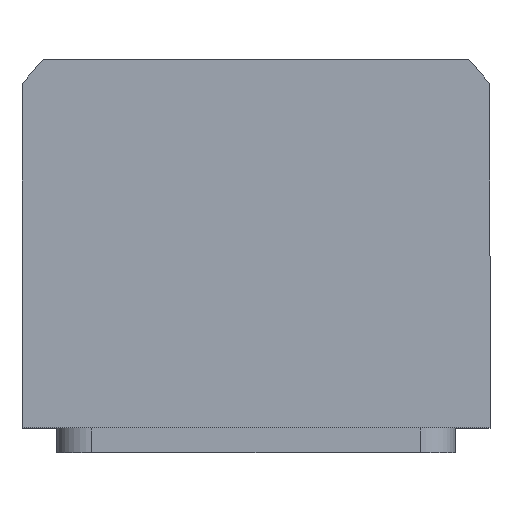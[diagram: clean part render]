
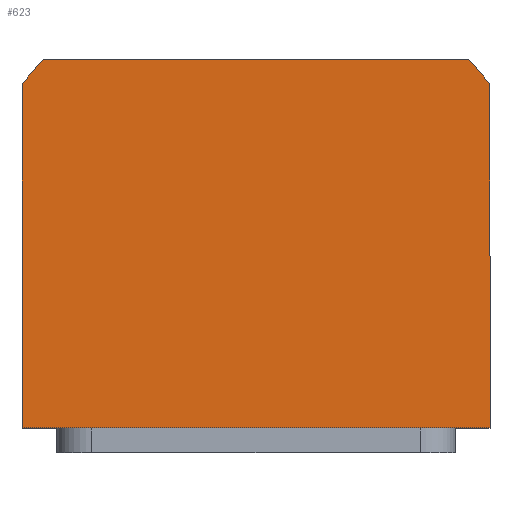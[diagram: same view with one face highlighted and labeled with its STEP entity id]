
A CAD part, top view. The second image highlights one B-rep face of the part: STEP entity #623.
In plain terms, the highlighted planar face has unit normal (0, 0, 1).
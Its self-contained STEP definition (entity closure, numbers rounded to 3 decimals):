
#493 = DIRECTION ( 'NONE',  ( 0., -1., 0. ) ) ;
#623 = ADVANCED_FACE ( 'NONE', ( #5533 ), #5941, .T. ) ;
#683 = LINE ( 'NONE', #8555, #5480 ) ;
#989 = VERTEX_POINT ( 'NONE', #6801 ) ;
#1232 = VECTOR ( 'NONE', #493, 1000. ) ;
#1371 = EDGE_CURVE ( 'NONE', #989, #8257, #7676, .T. ) ;
#1570 = CARTESIAN_POINT ( 'NONE',  ( 0., 0., 45. ) ) ;
#1644 = DIRECTION ( 'NONE',  ( 1., 0., 0. ) ) ;
#1953 = VERTEX_POINT ( 'NONE', #8809 ) ;
#1955 = DIRECTION ( 'NONE',  ( 0., 1., 0. ) ) ;
#2619 = CIRCLE ( 'NONE', #10968, 58.5 ) ;
#2807 = ORIENTED_EDGE ( 'NONE', *, *, #6880, .T. ) ;
#2930 = VERTEX_POINT ( 'NONE', #5197 ) ;
#2991 = EDGE_CURVE ( 'NONE', #2930, #989, #5097, .T. ) ;
#3346 = DIRECTION ( 'NONE',  ( -1., 0., 0. ) ) ;
#3618 = DIRECTION ( 'NONE',  ( 1., 0., 0. ) ) ;
#3679 = ORIENTED_EDGE ( 'NONE', *, *, #2991, .T. ) ;
#3869 = ORIENTED_EDGE ( 'NONE', *, *, #7200, .T. ) ;
#4120 = LINE ( 'NONE', #9909, #1232 ) ;
#4151 = CARTESIAN_POINT ( 'NONE',  ( -47., 34.832, 45. ) ) ;
#4295 = EDGE_LOOP ( 'NONE', ( #3679, #10414, #9879, #2807, #7511, #3869 ) ) ;
#4466 = AXIS2_PLACEMENT_3D ( 'NONE', #4792, #9826, #5516 ) ;
#4730 = VERTEX_POINT ( 'NONE', #4151 ) ;
#4792 = CARTESIAN_POINT ( 'NONE',  ( 0., 0., 45. ) ) ;
#4798 = CARTESIAN_POINT ( 'NONE',  ( 47., 34.832, 45. ) ) ;
#4991 = CARTESIAN_POINT ( 'NONE',  ( 42.688, 40., 45. ) ) ;
#5097 = LINE ( 'NONE', #6235, #9441 ) ;
#5197 = CARTESIAN_POINT ( 'NONE',  ( -47., -34., 45. ) ) ;
#5480 = VECTOR ( 'NONE', #3346, 1000. ) ;
#5516 = DIRECTION ( 'NONE',  ( 1., 0., 0. ) ) ;
#5533 = FACE_OUTER_BOUND ( 'NONE', #4295, .T. ) ;
#5756 = DIRECTION ( 'NONE',  ( 1., 0., 0. ) ) ;
#5941 = PLANE ( 'NONE',  #10108 ) ;
#5968 = EDGE_CURVE ( 'NONE', #8257, #8503, #2619, .T. ) ;
#6235 = CARTESIAN_POINT ( 'NONE',  ( 47., -34., 45. ) ) ;
#6801 = CARTESIAN_POINT ( 'NONE',  ( 47., -34., 45. ) ) ;
#6880 = EDGE_CURVE ( 'NONE', #8503, #1953, #683, .T. ) ;
#7121 = CARTESIAN_POINT ( 'NONE',  ( 47., 34.832, 45. ) ) ;
#7200 = EDGE_CURVE ( 'NONE', #4730, #2930, #4120, .T. ) ;
#7511 = ORIENTED_EDGE ( 'NONE', *, *, #10931, .T. ) ;
#7676 = LINE ( 'NONE', #4798, #10261 ) ;
#7744 = DIRECTION ( 'NONE',  ( 0., 0., 1. ) ) ;
#7766 = CIRCLE ( 'NONE', #4466, 58.5 ) ;
#8257 = VERTEX_POINT ( 'NONE', #7121 ) ;
#8349 = CARTESIAN_POINT ( 'NONE',  ( 0., 0., 45. ) ) ;
#8503 = VERTEX_POINT ( 'NONE', #4991 ) ;
#8555 = CARTESIAN_POINT ( 'NONE',  ( -42.688, 40., 45. ) ) ;
#8809 = CARTESIAN_POINT ( 'NONE',  ( -42.688, 40., 45. ) ) ;
#9227 = DIRECTION ( 'NONE',  ( 0., 0., 1. ) ) ;
#9441 = VECTOR ( 'NONE', #3618, 1000. ) ;
#9826 = DIRECTION ( 'NONE',  ( 0., 0., 1. ) ) ;
#9879 = ORIENTED_EDGE ( 'NONE', *, *, #5968, .T. ) ;
#9909 = CARTESIAN_POINT ( 'NONE',  ( -47., -34., 45. ) ) ;
#10108 = AXIS2_PLACEMENT_3D ( 'NONE', #1570, #7744, #1644 ) ;
#10261 = VECTOR ( 'NONE', #1955, 1000. ) ;
#10414 = ORIENTED_EDGE ( 'NONE', *, *, #1371, .T. ) ;
#10931 = EDGE_CURVE ( 'NONE', #1953, #4730, #7766, .T. ) ;
#10968 = AXIS2_PLACEMENT_3D ( 'NONE', #8349, #9227, #5756 ) ;
